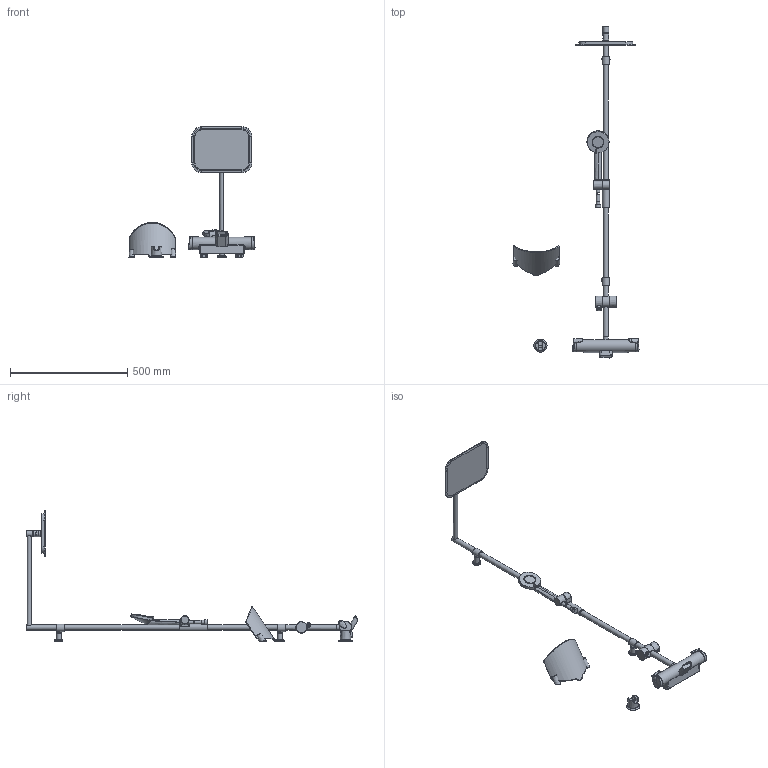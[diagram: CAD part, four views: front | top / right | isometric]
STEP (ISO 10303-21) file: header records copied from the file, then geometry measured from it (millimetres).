
FILE_DESCRIPTION (( 'STEP AP203' ), '1' );
FILE_NAME ('7193.STEP', '2017-03-09T05:59:40', ( '' ), ( '' ), 'SwSTEP 2.0', 'SolidWorks 2016', '' );
FILE_SCHEMA (( 'CONFIG_CONTROL_DESIGN' ));
Length unit declared in the file: millimetre
Products named in the file (1): 7193
Bounding box: 537.63 x 1415.84 x 557.94 mm (x, y, z)
Surface area: 473848.2 mm2 (no closed solid volume)
Topology: 0 solids, 9 shells, 642 faces, 1457 edges, 877 vertices
Faces by surface type: bspline 251, cylinder 128, plane 119, torus 78, cone 50, sphere 16
Full cylindrical faces by diameter (mm): 10 x2, 15 x2, 16.1 x1, 18 x2, 18.241 x1, 20.955 x1, 21.9 x3, 22 x4, 22.6 x1, 22.95 x1, 23 x2, 24 x2, 25 x2, 26 x2, 30 x1, 31 x2, 31.271 x1, 35 x2, 40 x2, 46.246 x1, 47.946 x1, 48.3 x1, 53 x1
Entity records: 44518 total; most frequent: CARTESIAN_POINT 32795, ORIENTED_EDGE 2592, DIRECTION 1916, EDGE_CURVE 1297, AXIS2_PLACEMENT_3D 858, VERTEX_POINT 827, EDGE_LOOP 798, FACE_OUTER_BOUND 724
